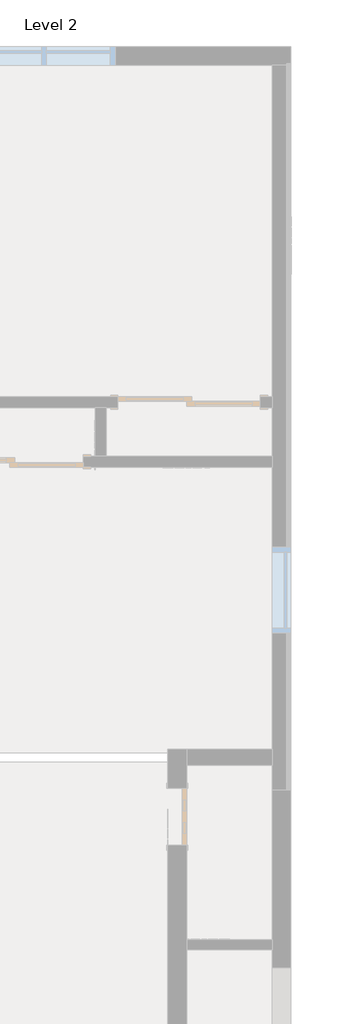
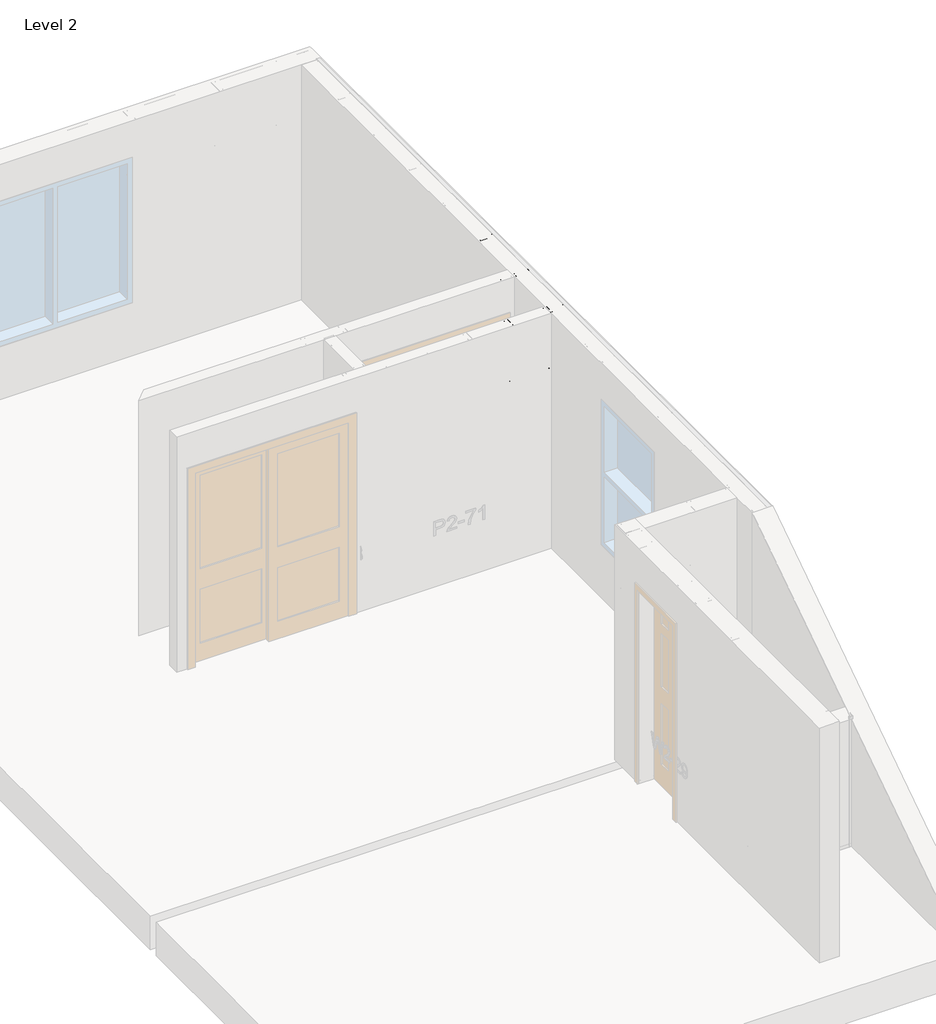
# One storey, part 43 of 46: 7 columns, 2 beams.
"""IFC4 building model written with IfcOpenShell, lengths in millimetres."""

from ifc_helpers import new_model, si_unit, point, frame, origin, place, context, project, spatial, circle_curve, ellipse_curve, trimmed, transform, mapped, element, save
from ifc_brep_helpers import plane_surface, extruded_surface, advanced_brep
from components import beam_350nf150_33_264438c5, beam_550nf150_43_6b8d1d64, column_350nf150_33_a93e9d8a

model = new_model("IFC4")

# Units and contexts
model_context = context("Model", 3, world=origin())
ifc_project = project(units=[si_unit("LENGTHUNIT", "METRE", prefix="MILLI")], contexts=[model_context])

# Site, building, storey
site = spatial("IfcSite", under=ifc_project)
building = spatial("IfcBuilding", under=site)
storey = spatial("IfcBuildingStorey", under=building, Name="Level 2", Elevation=3060.7)

# Beams
placement = place(None, origin())
beam_350nf150_33_shape = beam_350nf150_33_264438c5(model_context)
element("IfcBeam", 1, ObjectType="BIMSF-SSMA-S : 350NF150-33", at=placement, inside=storey, context=model_context, shape_type="MappedRepresentation", body=[
    mapped(beam_350nf150_33_shape, transform((-3281.4913349, 10251.1207511, 3076.575), x_axis=(1.0000000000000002, 0.0, 0.0), y_axis=(0.0, 0.0, -1.0000000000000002), z_axis=(0.0, 1.0000000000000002, 0.0))),
])
beam_550nf150_43_shape = beam_550nf150_43_6b8d1d64(model_context)
element("IfcBeam", 2, ObjectType="BIMSF-SSMA-S : 550NF150-43", at=placement, inside=storey, context=model_context, shape_type="MappedRepresentation", body=[
    mapped(beam_550nf150_43_shape, transform((-3141.7913349, 9984.8718592, 3076.575), x_axis=(0.0, -1.0000000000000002, 0.0), y_axis=(0.0, 0.0, -1.0000000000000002), z_axis=(1.0000000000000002, 0.0, 0.0))),
])

# Columns
element("IfcColumn", 3, ObjectType="BIMSF-SSMA-S-Column : 350NF150-33", at=placement, inside=storey, context=model_context, shape_type="AdvancedBrep", body=[
    advanced_brep(
    [(-3211.6413349, 9659.6535298, 3061.5929687), (-3211.6413349, 9570.7535298, 3061.5929687), (-3249.7413349, 9570.7535298, 3061.5929687), (-3249.7413349, 9576.4110455, 3061.5929687), (-3248.8590191, 9576.4110455, 3061.5929687), (-3248.8590191, 9571.6358455, 3061.5929687), (-3212.5236507, 9571.6358455, 3061.5929687), (-3212.5236507, 9658.771214, 3061.5929687), (-3248.8590191, 9658.771214, 3061.5929687), (-3248.8590191, 9653.996014, 3061.5929687), (-3249.7413349, 9653.996014, 3061.5929687), (-3249.7413349, 9659.6535298, 3061.5929687), (-3211.6413349, 9659.6535298, 5523.6070313), (-3211.6413349, 9570.7535298, 5523.6070313), (-3211.6413349, 9602.5035298, 3671.1929688), (-3211.6413349, 9627.9035298, 3671.1929688), (-3211.6413349, 9602.5035298, 4890.3929687), (-3211.6413349, 9627.9035298, 4890.3929687), (-3249.7413349, 9570.7535298, 5523.6070313), (-3249.7413349, 9576.4110455, 5523.6070313), (-3248.8590191, 9576.4110455, 5523.6070313), (-3248.8590191, 9571.6358455, 5523.6070313), (-3212.5236507, 9571.6358455, 5523.6070313), (-3212.5236507, 9658.771214, 5523.6070313), (-3212.5236507, 9627.9035298, 3671.1929688), (-3212.5236507, 9602.5035298, 3671.1929688), (-3212.5236507, 9627.9035298, 4890.3929687), (-3212.5236507, 9602.5035298, 4890.3929688), (-3248.8590191, 9658.771214, 5523.6070313), (-3248.8590191, 9653.996014, 5523.6070313), (-3249.7413349, 9653.996014, 5523.6070313), (-3249.7413349, 9659.6535298, 5523.6070313)],
    [
        (0, 1),
        (1, 2),
        (2, 3),
        (3, 4),
        (4, 5),
        (5, 6),
        (6, 7),
        (7, 8),
        (8, 9),
        (9, 10),
        (10, 11),
        (11, 0),
        (0, 12),
        (12, 13),
        (13, 1),
        (14, 15, circle_curve(frame((-3211.6413349, 9615.2035298, 3671.1929688), z_axis=(-1.0, 0.0, 0.0), x_axis=(0.0, -1.0, 0.0)), 12.7)),
        (15, 14, circle_curve(frame((-3211.6413349, 9615.2035298, 3671.1929688), z_axis=(-1.0, 0.0, 0.0), x_axis=(0.0, -1.0, 0.0)), 12.7)),
        (16, 17, circle_curve(frame((-3211.6413349, 9615.2035298, 4890.3929688), z_axis=(-1.0, 0.0, 0.0), x_axis=(0.0, -1.0, 0.0)), 12.7)),
        (17, 16, circle_curve(frame((-3211.6413349, 9615.2035298, 4890.3929688), z_axis=(-1.0, 0.0, 0.0), x_axis=(0.0, -1.0, 0.0)), 12.7)),
        (13, 18),
        (18, 2),
        (18, 19),
        (19, 3),
        (19, 20),
        (20, 4),
        (20, 21),
        (21, 5),
        (21, 22),
        (22, 6),
        (22, 23),
        (23, 7),
        (24, 25, circle_curve(frame((-3212.5236507, 9615.2035298, 3671.1929688), z_axis=(1.0, 0.0, 0.0), x_axis=(0.0, -1.0, 0.0)), 12.7)),
        (25, 24, circle_curve(frame((-3212.5236507, 9615.2035298, 3671.1929688), z_axis=(1.0, 0.0, 0.0), x_axis=(0.0, -1.0, 0.0)), 12.7)),
        (26, 27, circle_curve(frame((-3212.5236507, 9615.2035298, 4890.3929687), z_axis=(1.0, 0.0, 0.0), x_axis=(0.0, -1.0, 0.0)), 12.7)),
        (27, 26, circle_curve(frame((-3212.5236507, 9615.2035298, 4890.3929687), z_axis=(1.0, 0.0, 0.0), x_axis=(0.0, -1.0, 0.0)), 12.7)),
        (23, 28),
        (28, 8),
        (28, 29),
        (29, 9),
        (29, 30),
        (30, 10),
        (30, 31),
        (31, 11),
        (31, 12),
        (24, 15),
        (14, 25),
        (26, 17),
        (16, 27),
    ],
    [
        plane_surface(frame((-3211.6413349, 9659.6535298, 3061.5929687), z_axis=(0.0, 0.0, -1.0), x_axis=(1.0, 0.0, 0.0))),
        plane_surface(frame((-3211.6413349, 9570.7535298, 5523.6070313), z_axis=(1.0, 0.0, 0.0), x_axis=(0.0, 0.0, -1.0))),
        plane_surface(frame((-3249.7413349, 9570.7535298, 5523.6070313), z_axis=(0.0, -1.0, 0.0), x_axis=(0.0, 0.0, -1.0))),
        plane_surface(frame((-3249.7413349, 9576.4110455, 5523.6070313), z_axis=(-1.0, 0.0, 0.0), x_axis=(0.0, 0.0, -1.0))),
        plane_surface(frame((-3248.8590191, 9576.4110455, 5523.6070313), z_axis=(0.0, 1.0, 0.0), x_axis=(0.0, 0.0, -1.0))),
        plane_surface(frame((-3248.8590191, 9571.6358455, 5523.6070313), z_axis=(1.0, 0.0, 0.0), x_axis=(0.0, 0.0, -1.0))),
        plane_surface(frame((-3212.5236507, 9571.6358455, 5523.6070313), z_axis=(0.0, 1.0, 0.0), x_axis=(0.0, 0.0, -1.0))),
        plane_surface(frame((-3212.5236507, 9658.771214, 5523.6070313), z_axis=(-1.0, 0.0, 0.0), x_axis=(0.0, 0.0, -1.0))),
        plane_surface(frame((-3248.8590191, 9658.771214, 5523.6070313), z_axis=(0.0, -1.0, 0.0), x_axis=(0.0, 0.0, -1.0))),
        plane_surface(frame((-3248.8590191, 9653.996014, 5523.6070313), z_axis=(1.0, 0.0, 0.0), x_axis=(0.0, 0.0, -1.0))),
        plane_surface(frame((-3249.7413349, 9653.996014, 5523.6070313), z_axis=(0.0, -1.0, 0.0), x_axis=(0.0, 0.0, -1.0))),
        plane_surface(frame((-3249.7413349, 9659.6535298, 5523.6070313), z_axis=(-1.0, 0.0, 0.0), x_axis=(0.0, 0.0, -1.0))),
        plane_surface(frame((-3211.6413349, 9659.6535298, 5523.6070313), z_axis=(0.0, 1.0, 0.0), x_axis=(0.0, 0.0, -1.0))),
        plane_surface(frame((-3211.6413349, 9659.6535298, 5523.6070313), z_axis=(0.0, 0.0, 1.0), x_axis=(-1.0, 0.0, 0.0))),
        extruded_surface(trimmed(ellipse_curve(frame((-5692.7053974, 9615.2035298, 3671.1929688), z_axis=(1.0, 0.0, 0.0), x_axis=(0.0, -1.0, 0.0)), 12.7, 12.7), [point((-5692.7053974, 9627.9035298, 3671.1929688))], [point((-5692.7053974, 9602.5035298, 3671.1929688))], True, "CARTESIAN"), (-4924.028125, 0.0, 0.0), 4924.028125),
        extruded_surface(trimmed(ellipse_curve(frame((-5692.7053974, 9615.2035298, 3671.1929688), z_axis=(1.0, 0.0, 0.0), x_axis=(0.0, -1.0, 0.0)), 12.7, 12.7), [point((-5692.7053974, 9602.5035298, 3671.1929688))], [point((-5692.7053974, 9627.9035298, 3671.1929688))], True, "CARTESIAN"), (-4924.028125, 0.0, 0.0), 4924.028125),
        extruded_surface(trimmed(ellipse_curve(frame((-5692.7053974, 9615.2035298, 4890.3929687), z_axis=(1.0, 0.0, 0.0), x_axis=(0.0, -1.0, 0.0)), 12.7, 12.7), [point((-5692.7053974, 9627.9035298, 4890.3929687))], [point((-5692.7053974, 9602.5035298, 4890.3929687))], True, "CARTESIAN"), (-4924.028125, 0.0, 0.0), 4924.028125),
        extruded_surface(trimmed(ellipse_curve(frame((-5692.7053974, 9615.2035298, 4890.3929687), z_axis=(1.0, 0.0, 0.0), x_axis=(0.0, -1.0, 0.0)), 12.7, 12.7), [point((-5692.7053974, 9602.5035298, 4890.3929687))], [point((-5692.7053974, 9627.9035298, 4890.3929687))], True, "CARTESIAN"), (-4924.028125, 0.0, 0.0), 4924.028125),
    ],
    [
        (0, [[1, 2, 3, 4, 5, 6, 7, 8, 9, 10, 11, 12]]),
        (1, [[-1, 13, 14, 15], [16, 17], [18, 19]]),
        (2, [[-2, -15, 20, 21]]),
        (3, [[-3, -21, 22, 23]]),
        (4, [[-4, -23, 24, 25]]),
        (5, [[-5, -25, 26, 27]]),
        (6, [[-6, -27, 28, 29]]),
        (7, [[-7, -29, 30, 31], [32, 33], [34, 35]]),
        (8, [[-8, -31, 36, 37]]),
        (9, [[-9, -37, 38, 39]]),
        (10, [[-10, -39, 40, 41]]),
        (11, [[-11, -41, 42, 43]]),
        (12, [[-12, -43, 44, -13]]),
        (13, [[-14, -44, -42, -40, -38, -36, -30, -28, -26, -24, -22, -20]]),
        (14, [[45, -16, 46, -32]]),
        (15, [[-45, -33, -46, -17]]),
        (16, [[47, -18, 48, -34]]),
        (17, [[-47, -35, -48, -19]]),
    ],
),
])
element("IfcColumn", 4, ObjectType="BIMSF-SSMA-S-Column : 350NF150-33", at=placement, inside=storey, context=model_context, shape_type="AdvancedBrep", body=[
    advanced_brep(
    [(-3598.9913349, 9659.6535298, 3061.5929687), (-3598.9913349, 9570.7535298, 3061.5929687), (-3637.0913349, 9570.7535298, 3061.5929687), (-3637.0913349, 9576.4110455, 3061.5929687), (-3636.2090191, 9576.4110455, 3061.5929687), (-3636.2090191, 9571.6358455, 3061.5929687), (-3599.8736507, 9571.6358455, 3061.5929687), (-3599.8736507, 9658.771214, 3061.5929687), (-3636.2090191, 9658.771214, 3061.5929687), (-3636.2090191, 9653.996014, 3061.5929687), (-3637.0913349, 9653.996014, 3061.5929687), (-3637.0913349, 9659.6535298, 3061.5929687), (-3598.9913349, 9659.6535298, 5523.6070313), (-3598.9913349, 9570.7535298, 5523.6070313), (-3598.9913349, 9602.5035298, 3671.1929687), (-3598.9913349, 9627.9035298, 3671.1929687), (-3598.9913349, 9602.5035298, 4890.3929687), (-3598.9913349, 9627.9035298, 4890.3929687), (-3637.0913349, 9570.7535298, 5523.6070313), (-3637.0913349, 9576.4110455, 5523.6070313), (-3636.2090191, 9576.4110455, 5523.6070313), (-3636.2090191, 9571.6358455, 5523.6070313), (-3599.8736507, 9571.6358455, 5523.6070313), (-3599.8736507, 9658.771214, 5523.6070313), (-3599.8736507, 9627.9035298, 3671.1929688), (-3599.8736507, 9602.5035298, 3671.1929688), (-3599.8736507, 9627.9035298, 4890.3929687), (-3599.8736507, 9602.5035298, 4890.3929687), (-3636.2090191, 9658.771214, 5523.6070313), (-3636.2090191, 9653.996014, 5523.6070313), (-3637.0913349, 9653.996014, 5523.6070313), (-3637.0913349, 9659.6535298, 5523.6070313)],
    [
        (0, 1),
        (1, 2),
        (2, 3),
        (3, 4),
        (4, 5),
        (5, 6),
        (6, 7),
        (7, 8),
        (8, 9),
        (9, 10),
        (10, 11),
        (11, 0),
        (0, 12),
        (12, 13),
        (13, 1),
        (14, 15, circle_curve(frame((-3598.9913349, 9615.2035298, 3671.1929688), z_axis=(-1.0, 0.0, 0.0), x_axis=(0.0, -1.0, 0.0)), 12.7)),
        (15, 14, circle_curve(frame((-3598.9913349, 9615.2035298, 3671.1929688), z_axis=(-1.0, 0.0, 0.0), x_axis=(0.0, -1.0, 0.0)), 12.7)),
        (16, 17, circle_curve(frame((-3598.9913349, 9615.2035298, 4890.3929687), z_axis=(-1.0, 0.0, 0.0), x_axis=(0.0, -1.0, 0.0)), 12.7)),
        (17, 16, circle_curve(frame((-3598.9913349, 9615.2035298, 4890.3929687), z_axis=(-1.0, 0.0, 0.0), x_axis=(0.0, -1.0, 0.0)), 12.7)),
        (13, 18),
        (18, 2),
        (18, 19),
        (19, 3),
        (19, 20),
        (20, 4),
        (20, 21),
        (21, 5),
        (21, 22),
        (22, 6),
        (22, 23),
        (23, 7),
        (24, 25, circle_curve(frame((-3599.8736507, 9615.2035298, 3671.1929687), z_axis=(1.0, 0.0, 0.0), x_axis=(0.0, -1.0, 0.0)), 12.7)),
        (25, 24, circle_curve(frame((-3599.8736507, 9615.2035298, 3671.1929687), z_axis=(1.0, 0.0, 0.0), x_axis=(0.0, -1.0, 0.0)), 12.7)),
        (26, 27, circle_curve(frame((-3599.8736507, 9615.2035298, 4890.3929687), z_axis=(1.0, 0.0, 0.0), x_axis=(0.0, -1.0, 0.0)), 12.7)),
        (27, 26, circle_curve(frame((-3599.8736507, 9615.2035298, 4890.3929687), z_axis=(1.0, 0.0, 0.0), x_axis=(0.0, -1.0, 0.0)), 12.7)),
        (23, 28),
        (28, 8),
        (28, 29),
        (29, 9),
        (29, 30),
        (30, 10),
        (30, 31),
        (31, 11),
        (31, 12),
        (24, 15),
        (14, 25),
        (26, 17),
        (16, 27),
    ],
    [
        plane_surface(frame((-3598.9913349, 9659.6535298, 3061.5929687), z_axis=(0.0, 0.0, -1.0), x_axis=(1.0, 0.0, 0.0))),
        plane_surface(frame((-3598.9913349, 9570.7535298, 5523.6070313), z_axis=(1.0, 0.0, 0.0), x_axis=(0.0, 0.0, -1.0))),
        plane_surface(frame((-3637.0913349, 9570.7535298, 5523.6070313), z_axis=(0.0, -1.0, 0.0), x_axis=(0.0, 0.0, -1.0))),
        plane_surface(frame((-3637.0913349, 9576.4110455, 5523.6070313), z_axis=(-1.0, 0.0, 0.0), x_axis=(0.0, 0.0, -1.0))),
        plane_surface(frame((-3636.2090191, 9576.4110455, 5523.6070313), z_axis=(0.0, 1.0, 0.0), x_axis=(0.0, 0.0, -1.0))),
        plane_surface(frame((-3636.2090191, 9571.6358455, 5523.6070313), z_axis=(1.0, 0.0, 0.0), x_axis=(0.0, 0.0, -1.0))),
        plane_surface(frame((-3599.8736507, 9571.6358455, 5523.6070313), z_axis=(0.0, 1.0, 0.0), x_axis=(0.0, 0.0, -1.0))),
        plane_surface(frame((-3599.8736507, 9658.771214, 5523.6070313), z_axis=(-1.0, 0.0, 0.0), x_axis=(0.0, 0.0, -1.0))),
        plane_surface(frame((-3636.2090191, 9658.771214, 5523.6070313), z_axis=(0.0, -1.0, 0.0), x_axis=(0.0, 0.0, -1.0))),
        plane_surface(frame((-3636.2090191, 9653.996014, 5523.6070313), z_axis=(1.0, 0.0, 0.0), x_axis=(0.0, 0.0, -1.0))),
        plane_surface(frame((-3637.0913349, 9653.996014, 5523.6070313), z_axis=(0.0, -1.0, 0.0), x_axis=(0.0, 0.0, -1.0))),
        plane_surface(frame((-3637.0913349, 9659.6535298, 5523.6070313), z_axis=(-1.0, 0.0, 0.0), x_axis=(0.0, 0.0, -1.0))),
        plane_surface(frame((-3598.9913349, 9659.6535298, 5523.6070313), z_axis=(0.0, 1.0, 0.0), x_axis=(0.0, 0.0, -1.0))),
        plane_surface(frame((-3598.9913349, 9659.6535298, 5523.6070313), z_axis=(0.0, 0.0, 1.0), x_axis=(-1.0, 0.0, 0.0))),
        extruded_surface(trimmed(ellipse_curve(frame((-6080.0553974, 9615.2035298, 3671.1929688), z_axis=(1.0, 0.0, 0.0), x_axis=(0.0, -1.0, 0.0)), 12.7, 12.7), [point((-6080.0553974, 9627.9035298, 3671.1929688))], [point((-6080.0553974, 9602.5035298, 3671.1929688))], True, "CARTESIAN"), (-4924.028125, 0.0, 0.0), 4924.028125),
        extruded_surface(trimmed(ellipse_curve(frame((-6080.0553974, 9615.2035298, 3671.1929688), z_axis=(1.0, 0.0, 0.0), x_axis=(0.0, -1.0, 0.0)), 12.7, 12.7), [point((-6080.0553974, 9602.5035298, 3671.1929688))], [point((-6080.0553974, 9627.9035298, 3671.1929688))], True, "CARTESIAN"), (-4924.028125, 0.0, 0.0), 4924.028125),
        extruded_surface(trimmed(ellipse_curve(frame((-6080.0553974, 9615.2035298, 4890.3929687), z_axis=(1.0, 0.0, 0.0), x_axis=(0.0, -1.0, 0.0)), 12.7, 12.7), [point((-6080.0553974, 9627.9035298, 4890.3929687))], [point((-6080.0553974, 9602.5035298, 4890.3929687))], True, "CARTESIAN"), (-4924.028125, 0.0, 0.0), 4924.028125),
        extruded_surface(trimmed(ellipse_curve(frame((-6080.0553974, 9615.2035298, 4890.3929687), z_axis=(1.0, 0.0, 0.0), x_axis=(0.0, -1.0, 0.0)), 12.7, 12.7), [point((-6080.0553974, 9602.5035298, 4890.3929687))], [point((-6080.0553974, 9627.9035298, 4890.3929687))], True, "CARTESIAN"), (-4924.028125, 0.0, 0.0), 4924.028125),
    ],
    [
        (0, [[1, 2, 3, 4, 5, 6, 7, 8, 9, 10, 11, 12]]),
        (1, [[-1, 13, 14, 15], [16, 17], [18, 19]]),
        (2, [[-2, -15, 20, 21]]),
        (3, [[-3, -21, 22, 23]]),
        (4, [[-4, -23, 24, 25]]),
        (5, [[-5, -25, 26, 27]]),
        (6, [[-6, -27, 28, 29]]),
        (7, [[-7, -29, 30, 31], [32, 33], [34, 35]]),
        (8, [[-8, -31, 36, 37]]),
        (9, [[-9, -37, 38, 39]]),
        (10, [[-10, -39, 40, 41]]),
        (11, [[-11, -41, 42, 43]]),
        (12, [[-12, -43, 44, -13]]),
        (13, [[-14, -44, -42, -40, -38, -36, -30, -28, -26, -24, -22, -20]]),
        (14, [[45, -16, 46, -32]]),
        (15, [[-45, -33, -46, -17]]),
        (16, [[47, -18, 48, -34]]),
        (17, [[-47, -35, -48, -19]]),
    ],
),
])
column_350nf150_33_shape = column_350nf150_33_a93e9d8a(model_context)
element("IfcColumn", 5, ObjectType="BIMSF-SSMA-S-Column : 350NF150-33", at=placement, inside=storey, context=model_context, shape_type="MappedRepresentation", body=[
    mapped(column_350nf150_33_shape, transform((-3339.3435471, 10261.857876, 0.0), x_axis=(1.0, 0.0, 0.0), y_axis=(0.0, 1.0, 0.0), z_axis=(0.0, 0.0, 1.0))),
])
element("IfcColumn", 6, ObjectType="BIMSF-SSMA-S-Column : 550NF150-43", at=placement, inside=storey, context=model_context, shape_type="AdvancedBrep", body=[
    advanced_brep(
    [(-3071.9413349, 10798.302221, 3061.5929687), (-3211.6413349, 10798.302221, 3061.5929687), (-3211.6413349, 10836.402221, 3061.5929687), (-3205.7164507, 10836.402221, 3061.5929687), (-3205.7164507, 10835.2525367, 3061.5929687), (-3210.4916507, 10835.2525367, 3061.5929687), (-3210.4916507, 10799.4519052, 3061.5929687), (-3073.0910191, 10799.4519052, 3061.5929687), (-3073.0910191, 10835.2525367, 3061.5929687), (-3077.8662191, 10835.2525367, 3061.5929687), (-3077.8662191, 10836.402221, 3061.5929687), (-3071.9413349, 10836.402221, 3061.5929687), (-3071.9413349, 10798.302221, 5523.6070313), (-3211.6413349, 10798.302221, 5523.6070313), (-3154.4913349, 10798.302221, 3671.1929687), (-3129.0913349, 10798.302221, 3671.1929687), (-3154.4913349, 10798.302221, 4890.3929688), (-3129.0913349, 10798.302221, 4890.3929687), (-3211.6413349, 10836.402221, 5523.6070313), (-3205.7164507, 10836.402221, 5523.6070313), (-3205.7164507, 10835.2525367, 5523.6070313), (-3210.4916507, 10835.2525367, 5523.6070313), (-3210.4916507, 10799.4519052, 5523.6070313), (-3073.0910191, 10799.4519052, 5523.6070313), (-3129.0913349, 10799.4519052, 3671.1929688), (-3154.4913349, 10799.4519052, 3671.1929688), (-3129.0913349, 10799.4519052, 4890.3929688), (-3154.4913349, 10799.4519052, 4890.3929688), (-3073.0910191, 10835.2525367, 5523.6070313), (-3077.8662191, 10835.2525367, 5523.6070313), (-3077.8662191, 10836.402221, 5523.6070313), (-3071.9413349, 10836.402221, 5523.6070313)],
    [
        (0, 1),
        (1, 2),
        (2, 3),
        (3, 4),
        (4, 5),
        (5, 6),
        (6, 7),
        (7, 8),
        (8, 9),
        (9, 10),
        (10, 11),
        (11, 0),
        (0, 12),
        (12, 13),
        (13, 1),
        (14, 15, circle_curve(frame((-3141.7913349, 10798.302221, 3671.1929688), z_axis=(0.0, 1.0, 0.0), x_axis=(-1.0, 0.0, 0.0)), 12.7)),
        (15, 14, circle_curve(frame((-3141.7913349, 10798.302221, 3671.1929688), z_axis=(0.0, 1.0, 0.0), x_axis=(-1.0, 0.0, 0.0)), 12.7)),
        (16, 17, circle_curve(frame((-3141.7913349, 10798.302221, 4890.3929687), z_axis=(0.0, 1.0, 0.0), x_axis=(-1.0, 0.0, 0.0)), 12.7)),
        (17, 16, circle_curve(frame((-3141.7913349, 10798.302221, 4890.3929687), z_axis=(0.0, 1.0, 0.0), x_axis=(-1.0, 0.0, 0.0)), 12.7)),
        (13, 18),
        (18, 2),
        (18, 19),
        (19, 3),
        (19, 20),
        (20, 4),
        (20, 21),
        (21, 5),
        (21, 22),
        (22, 6),
        (22, 23),
        (23, 7),
        (24, 25, circle_curve(frame((-3141.7913349, 10799.4519052, 3671.1929688), z_axis=(0.0, -1.0, 0.0), x_axis=(-1.0, 0.0, 0.0)), 12.7)),
        (25, 24, circle_curve(frame((-3141.7913349, 10799.4519052, 3671.1929688), z_axis=(0.0, -1.0, 0.0), x_axis=(-1.0, 0.0, 0.0)), 12.7)),
        (26, 27, circle_curve(frame((-3141.7913349, 10799.4519052, 4890.3929687), z_axis=(0.0, -1.0, 0.0), x_axis=(-1.0, 0.0, 0.0)), 12.7)),
        (27, 26, circle_curve(frame((-3141.7913349, 10799.4519052, 4890.3929687), z_axis=(0.0, -1.0, 0.0), x_axis=(-1.0, 0.0, 0.0)), 12.7)),
        (23, 28),
        (28, 8),
        (28, 29),
        (29, 9),
        (29, 30),
        (30, 10),
        (30, 31),
        (31, 11),
        (31, 12),
        (24, 15),
        (14, 25),
        (26, 17),
        (16, 27),
    ],
    [
        plane_surface(frame((-3071.9413349, 10798.302221, 3061.5929687), z_axis=(0.0, 0.0, -1.0), x_axis=(0.0, -1.0, 0.0))),
        plane_surface(frame((-3211.6413349, 10798.302221, 5523.6070313), z_axis=(0.0, -1.0, 0.0), x_axis=(0.0, 0.0, -1.0))),
        plane_surface(frame((-3211.6413349, 10836.402221, 5523.6070313), z_axis=(-1.0, 0.0, 0.0), x_axis=(0.0, 0.0, -1.0))),
        plane_surface(frame((-3205.7164507, 10836.402221, 5523.6070313), z_axis=(0.0, 1.0, 0.0), x_axis=(0.0, 0.0, -1.0))),
        plane_surface(frame((-3205.7164507, 10835.2525367, 5523.6070313), z_axis=(1.0, 0.0, 0.0), x_axis=(0.0, 0.0, -1.0))),
        plane_surface(frame((-3210.4916507, 10835.2525367, 5523.6070313), z_axis=(0.0, -1.0, 0.0), x_axis=(0.0, 0.0, -1.0))),
        plane_surface(frame((-3210.4916507, 10799.4519052, 5523.6070313), z_axis=(1.0, 0.0, 0.0), x_axis=(0.0, 0.0, -1.0))),
        plane_surface(frame((-3073.0910191, 10799.4519052, 5523.6070313), z_axis=(0.0, 1.0, 0.0), x_axis=(0.0, 0.0, -1.0))),
        plane_surface(frame((-3073.0910191, 10835.2525367, 5523.6070313), z_axis=(-1.0, 0.0, 0.0), x_axis=(0.0, 0.0, -1.0))),
        plane_surface(frame((-3077.8662191, 10835.2525367, 5523.6070313), z_axis=(0.0, -1.0, 0.0), x_axis=(0.0, 0.0, -1.0))),
        plane_surface(frame((-3077.8662191, 10836.402221, 5523.6070313), z_axis=(-1.0, 0.0, 0.0), x_axis=(0.0, 0.0, -1.0))),
        plane_surface(frame((-3071.9413349, 10836.402221, 5523.6070313), z_axis=(0.0, 1.0, 0.0), x_axis=(0.0, 0.0, -1.0))),
        plane_surface(frame((-3071.9413349, 10798.302221, 5523.6070313), z_axis=(1.0, 0.0, 0.0), x_axis=(0.0, 0.0, -1.0))),
        plane_surface(frame((-3071.9413349, 10798.302221, 5523.6070313), z_axis=(0.0, 0.0, 1.0), x_axis=(0.0, 1.0, 0.0))),
        extruded_surface(trimmed(ellipse_curve(frame((-3141.7913349, 13279.3662835, 3671.1929688), z_axis=(0.0, -1.0, 0.0), x_axis=(-1.0, 0.0, 0.0)), 12.7, 12.7), [point((-3129.0913349, 13279.3662835, 3671.1929688))], [point((-3154.4913349, 13279.3662835, 3671.1929688))], True, "CARTESIAN"), (0.0, 4924.028125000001, 0.0), 4924.028125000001),
        extruded_surface(trimmed(ellipse_curve(frame((-3141.7913349, 13279.3662835, 3671.1929688), z_axis=(0.0, -1.0, 0.0), x_axis=(-1.0, 0.0, 0.0)), 12.7, 12.7), [point((-3154.4913349, 13279.3662835, 3671.1929688))], [point((-3129.0913349, 13279.3662835, 3671.1929688))], True, "CARTESIAN"), (0.0, 4924.028125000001, 0.0), 4924.028125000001),
        extruded_surface(trimmed(ellipse_curve(frame((-3141.7913349, 13279.3662835, 4890.3929687), z_axis=(0.0, -1.0, 0.0), x_axis=(-1.0, 0.0, 0.0)), 12.7, 12.7), [point((-3129.0913349, 13279.3662835, 4890.3929687))], [point((-3154.4913349, 13279.3662835, 4890.3929687))], True, "CARTESIAN"), (0.0, 4924.028125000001, 0.0), 4924.028125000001),
        extruded_surface(trimmed(ellipse_curve(frame((-3141.7913349, 13279.3662835, 4890.3929687), z_axis=(0.0, -1.0, 0.0), x_axis=(-1.0, 0.0, 0.0)), 12.7, 12.7), [point((-3154.4913349, 13279.3662835, 4890.3929687))], [point((-3129.0913349, 13279.3662835, 4890.3929687))], True, "CARTESIAN"), (0.0, 4924.028125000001, 0.0), 4924.028125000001),
    ],
    [
        (0, [[1, 2, 3, 4, 5, 6, 7, 8, 9, 10, 11, 12]]),
        (1, [[-1, 13, 14, 15], [16, 17], [18, 19]]),
        (2, [[-2, -15, 20, 21]]),
        (3, [[-3, -21, 22, 23]]),
        (4, [[-4, -23, 24, 25]]),
        (5, [[-5, -25, 26, 27]]),
        (6, [[-6, -27, 28, 29]]),
        (7, [[-7, -29, 30, 31], [32, 33], [34, 35]]),
        (8, [[-8, -31, 36, 37]]),
        (9, [[-9, -37, 38, 39]]),
        (10, [[-10, -39, 40, 41]]),
        (11, [[-11, -41, 42, 43]]),
        (12, [[-12, -43, 44, -13]]),
        (13, [[-14, -44, -42, -40, -38, -36, -30, -28, -26, -24, -22, -20]]),
        (14, [[45, -16, 46, -32]]),
        (15, [[-45, -33, -46, -17]]),
        (16, [[47, -18, 48, -34]]),
        (17, [[-47, -35, -48, -19]]),
    ],
),
])
element("IfcColumn", 7, ObjectType="BIMSF-SSMA-S-Column : 550NF150-43", at=placement, inside=storey, context=model_context, shape_type="AdvancedBrep", body=[
    advanced_brep(
    [(-3071.9413349, 10188.702221, 3061.5929687), (-3211.6413349, 10188.702221, 3061.5929687), (-3211.6413349, 10226.802221, 3061.5929687), (-3205.7164507, 10226.802221, 3061.5929687), (-3205.7164507, 10225.6525367, 3061.5929687), (-3210.4916507, 10225.6525367, 3061.5929687), (-3210.4916507, 10189.8519052, 3061.5929687), (-3073.0910191, 10189.8519052, 3061.5929687), (-3073.0910191, 10225.6525367, 3061.5929687), (-3077.8662191, 10225.6525367, 3061.5929687), (-3077.8662191, 10226.802221, 3061.5929687), (-3071.9413349, 10226.802221, 3061.5929687), (-3071.9413349, 10188.702221, 5523.6070313), (-3211.6413349, 10188.702221, 5523.6070313), (-3154.4913349, 10188.702221, 3671.1929688), (-3129.0913349, 10188.702221, 3671.1929688), (-3154.4913349, 10188.702221, 4890.3929687), (-3129.0913349, 10188.702221, 4890.3929687), (-3211.6413349, 10226.802221, 5523.6070313), (-3205.7164507, 10226.802221, 5523.6070313), (-3205.7164507, 10225.6525367, 5523.6070313), (-3210.4916507, 10225.6525367, 5523.6070313), (-3210.4916507, 10189.8519052, 5523.6070313), (-3073.0910191, 10189.8519052, 5523.6070313), (-3129.0913349, 10189.8519052, 3671.1929688), (-3154.4913349, 10189.8519052, 3671.1929688), (-3129.0913349, 10189.8519052, 4890.3929688), (-3154.4913349, 10189.8519052, 4890.3929688), (-3073.0910191, 10225.6525367, 5523.6070313), (-3077.8662191, 10225.6525367, 5523.6070313), (-3077.8662191, 10226.802221, 5523.6070313), (-3071.9413349, 10226.802221, 5523.6070313)],
    [
        (0, 1),
        (1, 2),
        (2, 3),
        (3, 4),
        (4, 5),
        (5, 6),
        (6, 7),
        (7, 8),
        (8, 9),
        (9, 10),
        (10, 11),
        (11, 0),
        (0, 12),
        (12, 13),
        (13, 1),
        (14, 15, circle_curve(frame((-3141.7913349, 10188.702221, 3671.1929688), z_axis=(0.0, 1.0, 0.0), x_axis=(-1.0, 0.0, 0.0)), 12.7)),
        (15, 14, circle_curve(frame((-3141.7913349, 10188.702221, 3671.1929688), z_axis=(0.0, 1.0, 0.0), x_axis=(-1.0, 0.0, 0.0)), 12.7)),
        (16, 17, circle_curve(frame((-3141.7913349, 10188.702221, 4890.3929687), z_axis=(0.0, 1.0, 0.0), x_axis=(-1.0, 0.0, 0.0)), 12.7)),
        (17, 16, circle_curve(frame((-3141.7913349, 10188.702221, 4890.3929687), z_axis=(0.0, 1.0, 0.0), x_axis=(-1.0, 0.0, 0.0)), 12.7)),
        (13, 18),
        (18, 2),
        (18, 19),
        (19, 3),
        (19, 20),
        (20, 4),
        (20, 21),
        (21, 5),
        (21, 22),
        (22, 6),
        (22, 23),
        (23, 7),
        (24, 25, circle_curve(frame((-3141.7913349, 10189.8519052, 3671.1929688), z_axis=(0.0, -1.0, 0.0), x_axis=(-1.0, 0.0, 0.0)), 12.7)),
        (25, 24, circle_curve(frame((-3141.7913349, 10189.8519052, 3671.1929688), z_axis=(0.0, -1.0, 0.0), x_axis=(-1.0, 0.0, 0.0)), 12.7)),
        (26, 27, circle_curve(frame((-3141.7913349, 10189.8519052, 4890.3929687), z_axis=(0.0, -1.0, 0.0), x_axis=(-1.0, 0.0, 0.0)), 12.7)),
        (27, 26, circle_curve(frame((-3141.7913349, 10189.8519052, 4890.3929687), z_axis=(0.0, -1.0, 0.0), x_axis=(-1.0, 0.0, 0.0)), 12.7)),
        (23, 28),
        (28, 8),
        (28, 29),
        (29, 9),
        (29, 30),
        (30, 10),
        (30, 31),
        (31, 11),
        (31, 12),
        (24, 15),
        (14, 25),
        (26, 17),
        (16, 27),
    ],
    [
        plane_surface(frame((-3071.9413349, 10188.702221, 3061.5929687), z_axis=(0.0, 0.0, -1.0), x_axis=(0.0, -1.0, 0.0))),
        plane_surface(frame((-3211.6413349, 10188.702221, 5523.6070313), z_axis=(0.0, -1.0, 0.0), x_axis=(0.0, 0.0, -1.0))),
        plane_surface(frame((-3211.6413349, 10226.802221, 5523.6070313), z_axis=(-1.0, 0.0, 0.0), x_axis=(0.0, 0.0, -1.0))),
        plane_surface(frame((-3205.7164507, 10226.802221, 5523.6070313), z_axis=(0.0, 1.0, 0.0), x_axis=(0.0, 0.0, -1.0))),
        plane_surface(frame((-3205.7164507, 10225.6525367, 5523.6070313), z_axis=(1.0, 0.0, 0.0), x_axis=(0.0, 0.0, -1.0))),
        plane_surface(frame((-3210.4916507, 10225.6525367, 5523.6070313), z_axis=(0.0, -1.0, 0.0), x_axis=(0.0, 0.0, -1.0))),
        plane_surface(frame((-3210.4916507, 10189.8519052, 5523.6070313), z_axis=(1.0, 0.0, 0.0), x_axis=(0.0, 0.0, -1.0))),
        plane_surface(frame((-3073.0910191, 10189.8519052, 5523.6070313), z_axis=(0.0, 1.0, 0.0), x_axis=(0.0, 0.0, -1.0))),
        plane_surface(frame((-3073.0910191, 10225.6525367, 5523.6070313), z_axis=(-1.0, 0.0, 0.0), x_axis=(0.0, 0.0, -1.0))),
        plane_surface(frame((-3077.8662191, 10225.6525367, 5523.6070313), z_axis=(0.0, -1.0, 0.0), x_axis=(0.0, 0.0, -1.0))),
        plane_surface(frame((-3077.8662191, 10226.802221, 5523.6070313), z_axis=(-1.0, 0.0, 0.0), x_axis=(0.0, 0.0, -1.0))),
        plane_surface(frame((-3071.9413349, 10226.802221, 5523.6070313), z_axis=(0.0, 1.0, 0.0), x_axis=(0.0, 0.0, -1.0))),
        plane_surface(frame((-3071.9413349, 10188.702221, 5523.6070313), z_axis=(1.0, 0.0, 0.0), x_axis=(0.0, 0.0, -1.0))),
        plane_surface(frame((-3071.9413349, 10188.702221, 5523.6070313), z_axis=(0.0, 0.0, 1.0), x_axis=(0.0, 1.0, 0.0))),
        extruded_surface(trimmed(ellipse_curve(frame((-3141.7913349, 12669.7662835, 3671.1929688), z_axis=(0.0, -1.0, 0.0), x_axis=(-1.0, 0.0, 0.0)), 12.7, 12.7), [point((-3129.0913349, 12669.7662835, 3671.1929688))], [point((-3154.4913349, 12669.7662835, 3671.1929688))], True, "CARTESIAN"), (0.0, 4924.028125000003, 0.0), 4924.028125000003),
        extruded_surface(trimmed(ellipse_curve(frame((-3141.7913349, 12669.7662835, 3671.1929688), z_axis=(0.0, -1.0, 0.0), x_axis=(-1.0, 0.0, 0.0)), 12.7, 12.7), [point((-3154.4913349, 12669.7662835, 3671.1929688))], [point((-3129.0913349, 12669.7662835, 3671.1929688))], True, "CARTESIAN"), (0.0, 4924.028125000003, 0.0), 4924.028125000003),
        extruded_surface(trimmed(ellipse_curve(frame((-3141.7913349, 12669.7662835, 4890.3929687), z_axis=(0.0, -1.0, 0.0), x_axis=(-1.0, 0.0, 0.0)), 12.7, 12.7), [point((-3129.0913349, 12669.7662835, 4890.3929687))], [point((-3154.4913349, 12669.7662835, 4890.3929687))], True, "CARTESIAN"), (0.0, 4924.028125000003, 0.0), 4924.028125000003),
        extruded_surface(trimmed(ellipse_curve(frame((-3141.7913349, 12669.7662835, 4890.3929687), z_axis=(0.0, -1.0, 0.0), x_axis=(-1.0, 0.0, 0.0)), 12.7, 12.7), [point((-3154.4913349, 12669.7662835, 4890.3929687))], [point((-3129.0913349, 12669.7662835, 4890.3929687))], True, "CARTESIAN"), (0.0, 4924.028125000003, 0.0), 4924.028125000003),
    ],
    [
        (0, [[1, 2, 3, 4, 5, 6, 7, 8, 9, 10, 11, 12]]),
        (1, [[-1, 13, 14, 15], [16, 17], [18, 19]]),
        (2, [[-2, -15, 20, 21]]),
        (3, [[-3, -21, 22, 23]]),
        (4, [[-4, -23, 24, 25]]),
        (5, [[-5, -25, 26, 27]]),
        (6, [[-6, -27, 28, 29]]),
        (7, [[-7, -29, 30, 31], [32, 33], [34, 35]]),
        (8, [[-8, -31, 36, 37]]),
        (9, [[-9, -37, 38, 39]]),
        (10, [[-10, -39, 40, 41]]),
        (11, [[-11, -41, 42, 43]]),
        (12, [[-12, -43, 44, -13]]),
        (13, [[-14, -44, -42, -40, -38, -36, -30, -28, -26, -24, -22, -20]]),
        (14, [[45, -16, 46, -32]]),
        (15, [[-45, -33, -46, -17]]),
        (16, [[47, -18, 48, -34]]),
        (17, [[-47, -35, -48, -19]]),
    ],
),
])
element("IfcColumn", 8, ObjectType="BIMSF-SSMA-S-Column : 550NF150-43", at=placement, inside=storey, context=model_context, shape_type="AdvancedBrep", body=[
    advanced_brep(
    [(-3071.9413349, 9579.102221, 3061.5929687), (-3211.6413349, 9579.102221, 3061.5929687), (-3211.6413349, 9617.202221, 3061.5929687), (-3205.7164507, 9617.202221, 3061.5929687), (-3205.7164507, 9616.0525367, 3061.5929687), (-3210.4916507, 9616.0525367, 3061.5929687), (-3210.4916507, 9580.2519052, 3061.5929687), (-3073.0910191, 9580.2519052, 3061.5929687), (-3073.0910191, 9616.0525367, 3061.5929687), (-3077.8662191, 9616.0525367, 3061.5929687), (-3077.8662191, 9617.202221, 3061.5929687), (-3071.9413349, 9617.202221, 3061.5929687), (-3071.9413349, 9579.102221, 5523.6070313), (-3211.6413349, 9579.102221, 5523.6070313), (-3154.4913349, 9579.102221, 3671.1929687), (-3129.0913349, 9579.102221, 3671.1929687), (-3154.4913349, 9579.102221, 4890.3929688), (-3129.0913349, 9579.102221, 4890.3929687), (-3211.6413349, 9617.202221, 5523.6070313), (-3205.7164507, 9617.202221, 5523.6070313), (-3205.7164507, 9616.0525367, 5523.6070313), (-3210.4916507, 9616.0525367, 5523.6070313), (-3210.4916507, 9580.2519052, 5523.6070313), (-3073.0910191, 9580.2519052, 5523.6070313), (-3129.0913349, 9580.2519052, 3671.1929688), (-3154.4913349, 9580.2519052, 3671.1929688), (-3129.0913349, 9580.2519052, 4890.3929688), (-3154.4913349, 9580.2519052, 4890.3929688), (-3073.0910191, 9616.0525367, 5523.6070313), (-3077.8662191, 9616.0525367, 5523.6070313), (-3077.8662191, 9617.202221, 5523.6070313), (-3071.9413349, 9617.202221, 5523.6070313)],
    [
        (0, 1),
        (1, 2),
        (2, 3),
        (3, 4),
        (4, 5),
        (5, 6),
        (6, 7),
        (7, 8),
        (8, 9),
        (9, 10),
        (10, 11),
        (11, 0),
        (0, 12),
        (12, 13),
        (13, 1),
        (14, 15, circle_curve(frame((-3141.7913349, 9579.102221, 3671.1929688), z_axis=(0.0, 1.0, 0.0), x_axis=(-1.0, 0.0, 0.0)), 12.7)),
        (15, 14, circle_curve(frame((-3141.7913349, 9579.102221, 3671.1929688), z_axis=(0.0, 1.0, 0.0), x_axis=(-1.0, 0.0, 0.0)), 12.7)),
        (16, 17, circle_curve(frame((-3141.7913349, 9579.102221, 4890.3929687), z_axis=(0.0, 1.0, 0.0), x_axis=(-1.0, 0.0, 0.0)), 12.7)),
        (17, 16, circle_curve(frame((-3141.7913349, 9579.102221, 4890.3929687), z_axis=(0.0, 1.0, 0.0), x_axis=(-1.0, 0.0, 0.0)), 12.7)),
        (13, 18),
        (18, 2),
        (18, 19),
        (19, 3),
        (19, 20),
        (20, 4),
        (20, 21),
        (21, 5),
        (21, 22),
        (22, 6),
        (22, 23),
        (23, 7),
        (24, 25, circle_curve(frame((-3141.7913349, 9580.2519052, 3671.1929688), z_axis=(0.0, -1.0, 0.0), x_axis=(-1.0, 0.0, 0.0)), 12.7)),
        (25, 24, circle_curve(frame((-3141.7913349, 9580.2519052, 3671.1929688), z_axis=(0.0, -1.0, 0.0), x_axis=(-1.0, 0.0, 0.0)), 12.7)),
        (26, 27, circle_curve(frame((-3141.7913349, 9580.2519052, 4890.3929687), z_axis=(0.0, -1.0, 0.0), x_axis=(-1.0, 0.0, 0.0)), 12.7)),
        (27, 26, circle_curve(frame((-3141.7913349, 9580.2519052, 4890.3929687), z_axis=(0.0, -1.0, 0.0), x_axis=(-1.0, 0.0, 0.0)), 12.7)),
        (23, 28),
        (28, 8),
        (28, 29),
        (29, 9),
        (29, 30),
        (30, 10),
        (30, 31),
        (31, 11),
        (31, 12),
        (24, 15),
        (14, 25),
        (26, 17),
        (16, 27),
    ],
    [
        plane_surface(frame((-3071.9413349, 9579.102221, 3061.5929687), z_axis=(0.0, 0.0, -1.0), x_axis=(0.0, -1.0, 0.0))),
        plane_surface(frame((-3211.6413349, 9579.102221, 5523.6070313), z_axis=(0.0, -1.0, 0.0), x_axis=(0.0, 0.0, -1.0))),
        plane_surface(frame((-3211.6413349, 9617.202221, 5523.6070313), z_axis=(-1.0, 0.0, 0.0), x_axis=(0.0, 0.0, -1.0))),
        plane_surface(frame((-3205.7164507, 9617.202221, 5523.6070313), z_axis=(0.0, 1.0, 0.0), x_axis=(0.0, 0.0, -1.0))),
        plane_surface(frame((-3205.7164507, 9616.0525367, 5523.6070313), z_axis=(1.0, 0.0, 0.0), x_axis=(0.0, 0.0, -1.0))),
        plane_surface(frame((-3210.4916507, 9616.0525367, 5523.6070313), z_axis=(0.0, -1.0, 0.0), x_axis=(0.0, 0.0, -1.0))),
        plane_surface(frame((-3210.4916507, 9580.2519052, 5523.6070313), z_axis=(1.0, 0.0, 0.0), x_axis=(0.0, 0.0, -1.0))),
        plane_surface(frame((-3073.0910191, 9580.2519052, 5523.6070313), z_axis=(0.0, 1.0, 0.0), x_axis=(0.0, 0.0, -1.0))),
        plane_surface(frame((-3073.0910191, 9616.0525367, 5523.6070313), z_axis=(-1.0, 0.0, 0.0), x_axis=(0.0, 0.0, -1.0))),
        plane_surface(frame((-3077.8662191, 9616.0525367, 5523.6070313), z_axis=(0.0, -1.0, 0.0), x_axis=(0.0, 0.0, -1.0))),
        plane_surface(frame((-3077.8662191, 9617.202221, 5523.6070313), z_axis=(-1.0, 0.0, 0.0), x_axis=(0.0, 0.0, -1.0))),
        plane_surface(frame((-3071.9413349, 9617.202221, 5523.6070313), z_axis=(0.0, 1.0, 0.0), x_axis=(0.0, 0.0, -1.0))),
        plane_surface(frame((-3071.9413349, 9579.102221, 5523.6070313), z_axis=(1.0, 0.0, 0.0), x_axis=(0.0, 0.0, -1.0))),
        plane_surface(frame((-3071.9413349, 9579.102221, 5523.6070313), z_axis=(0.0, 0.0, 1.0), x_axis=(0.0, 1.0, 0.0))),
        extruded_surface(trimmed(ellipse_curve(frame((-3141.7913349, 12060.1662835, 3671.1929688), z_axis=(0.0, -1.0, 0.0), x_axis=(-1.0, 0.0, 0.0)), 12.7, 12.7), [point((-3129.0913349, 12060.1662835, 3671.1929688))], [point((-3154.4913349, 12060.1662835, 3671.1929688))], True, "CARTESIAN"), (0.0, 4924.028124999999, 0.0), 4924.028124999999),
        extruded_surface(trimmed(ellipse_curve(frame((-3141.7913349, 12060.1662835, 3671.1929688), z_axis=(0.0, -1.0, 0.0), x_axis=(-1.0, 0.0, 0.0)), 12.7, 12.7), [point((-3154.4913349, 12060.1662835, 3671.1929688))], [point((-3129.0913349, 12060.1662835, 3671.1929688))], True, "CARTESIAN"), (0.0, 4924.028124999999, 0.0), 4924.028124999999),
        extruded_surface(trimmed(ellipse_curve(frame((-3141.7913349, 12060.1662835, 4890.3929687), z_axis=(0.0, -1.0, 0.0), x_axis=(-1.0, 0.0, 0.0)), 12.7, 12.7), [point((-3129.0913349, 12060.1662835, 4890.3929687))], [point((-3154.4913349, 12060.1662835, 4890.3929687))], True, "CARTESIAN"), (0.0, 4924.028124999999, 0.0), 4924.028124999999),
        extruded_surface(trimmed(ellipse_curve(frame((-3141.7913349, 12060.1662835, 4890.3929687), z_axis=(0.0, -1.0, 0.0), x_axis=(-1.0, 0.0, 0.0)), 12.7, 12.7), [point((-3154.4913349, 12060.1662835, 4890.3929687))], [point((-3129.0913349, 12060.1662835, 4890.3929687))], True, "CARTESIAN"), (0.0, 4924.028124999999, 0.0), 4924.028124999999),
    ],
    [
        (0, [[1, 2, 3, 4, 5, 6, 7, 8, 9, 10, 11, 12]]),
        (1, [[-1, 13, 14, 15], [16, 17], [18, 19]]),
        (2, [[-2, -15, 20, 21]]),
        (3, [[-3, -21, 22, 23]]),
        (4, [[-4, -23, 24, 25]]),
        (5, [[-5, -25, 26, 27]]),
        (6, [[-6, -27, 28, 29]]),
        (7, [[-7, -29, 30, 31], [32, 33], [34, 35]]),
        (8, [[-8, -31, 36, 37]]),
        (9, [[-9, -37, 38, 39]]),
        (10, [[-10, -39, 40, 41]]),
        (11, [[-11, -41, 42, 43]]),
        (12, [[-12, -43, 44, -13]]),
        (13, [[-14, -44, -42, -40, -38, -36, -30, -28, -26, -24, -22, -20]]),
        (14, [[45, -16, 46, -32]]),
        (15, [[-45, -33, -46, -17]]),
        (16, [[47, -18, 48, -34]]),
        (17, [[-47, -35, -48, -19]]),
    ],
),
])
element("IfcColumn", 9, ObjectType="BIMSF-SSMA-S-Column : 550NF150-43", at=placement, inside=storey, context=model_context, shape_type="AdvancedBrep", body=[
    advanced_brep(
    [(-3071.9413349, 8359.902221, 3061.5929687), (-3211.6413349, 8359.902221, 3061.5929687), (-3211.6413349, 8398.002221, 3061.5929687), (-3205.7164507, 8398.002221, 3061.5929687), (-3205.7164507, 8396.8525367, 3061.5929687), (-3210.4916507, 8396.8525367, 3061.5929687), (-3210.4916507, 8361.0519052, 3061.5929687), (-3073.0910191, 8361.0519052, 3061.5929687), (-3073.0910191, 8396.8525367, 3061.5929687), (-3077.8662191, 8396.8525367, 3061.5929687), (-3077.8662191, 8398.002221, 3061.5929687), (-3071.9413349, 8398.002221, 3061.5929687), (-3071.9413349, 8359.902221, 3615.4320313), (-3211.6413349, 8359.902221, 3615.4320313), (-3154.4913349, 8359.902221, 3366.3929688), (-3129.0913349, 8359.902221, 3366.3929687), (-3211.6413349, 8398.002221, 3615.4320313), (-3205.7164507, 8398.002221, 3615.4320313), (-3205.7164507, 8396.8525367, 3615.4320313), (-3210.4916507, 8396.8525367, 3615.4320313), (-3210.4916507, 8361.0519052, 3615.4320313), (-3073.0910191, 8361.0519052, 3615.4320313), (-3129.0913349, 8361.0519052, 3366.3929687), (-3154.4913349, 8361.0519052, 3366.3929687), (-3073.0910191, 8396.8525367, 3615.4320313), (-3077.8662191, 8396.8525367, 3615.4320313), (-3077.8662191, 8398.002221, 3615.4320313), (-3071.9413349, 8398.002221, 3615.4320313)],
    [
        (0, 1),
        (1, 2),
        (2, 3),
        (3, 4),
        (4, 5),
        (5, 6),
        (6, 7),
        (7, 8),
        (8, 9),
        (9, 10),
        (10, 11),
        (11, 0),
        (0, 12),
        (12, 13),
        (13, 1),
        (14, 15, circle_curve(frame((-3141.7913349, 8359.902221, 3366.3929688), z_axis=(0.0, 1.0, 0.0), x_axis=(-1.0, 0.0, 0.0)), 12.7)),
        (15, 14, circle_curve(frame((-3141.7913349, 8359.902221, 3366.3929688), z_axis=(0.0, 1.0, 0.0), x_axis=(-1.0, 0.0, 0.0)), 12.7)),
        (13, 16),
        (16, 2),
        (16, 17),
        (17, 3),
        (17, 18),
        (18, 4),
        (18, 19),
        (19, 5),
        (19, 20),
        (20, 6),
        (20, 21),
        (21, 7),
        (22, 23, circle_curve(frame((-3141.7913349, 8361.0519052, 3366.3929687), z_axis=(0.0, -1.0, 0.0), x_axis=(-1.0, 0.0, 0.0)), 12.7)),
        (23, 22, circle_curve(frame((-3141.7913349, 8361.0519052, 3366.3929688), z_axis=(0.0, -1.0, 0.0), x_axis=(-1.0, 0.0, 0.0)), 12.7)),
        (21, 24),
        (24, 8),
        (24, 25),
        (25, 9),
        (25, 26),
        (26, 10),
        (26, 27),
        (27, 11),
        (27, 12),
        (22, 15),
        (14, 23),
    ],
    [
        plane_surface(frame((-3071.9413349, 8359.902221, 3061.5929687), z_axis=(0.0, 0.0, -1.0), x_axis=(0.0, -1.0, 0.0))),
        plane_surface(frame((-3211.6413349, 8359.902221, 3615.4320313), z_axis=(0.0, -1.0, 0.0), x_axis=(0.0, 0.0, -1.0))),
        plane_surface(frame((-3211.6413349, 8398.002221, 3615.4320313), z_axis=(-1.0, 0.0, 0.0), x_axis=(0.0, 0.0, -1.0))),
        plane_surface(frame((-3205.7164507, 8398.002221, 3615.4320313), z_axis=(0.0, 1.0, 0.0), x_axis=(0.0, 0.0, -1.0))),
        plane_surface(frame((-3205.7164507, 8396.8525367, 3615.4320313), z_axis=(1.0, 0.0, 0.0), x_axis=(0.0, 0.0, -1.0))),
        plane_surface(frame((-3210.4916507, 8396.8525367, 3615.4320313), z_axis=(0.0, -1.0, 0.0), x_axis=(0.0, 0.0, -1.0))),
        plane_surface(frame((-3210.4916507, 8361.0519052, 3615.4320313), z_axis=(1.0, 0.0, 0.0), x_axis=(0.0, 0.0, -1.0))),
        plane_surface(frame((-3073.0910191, 8361.0519052, 3615.4320313), z_axis=(0.0, 1.0, 0.0), x_axis=(0.0, 0.0, -1.0))),
        plane_surface(frame((-3073.0910191, 8396.8525367, 3615.4320313), z_axis=(-1.0, 0.0, 0.0), x_axis=(0.0, 0.0, -1.0))),
        plane_surface(frame((-3077.8662191, 8396.8525367, 3615.4320313), z_axis=(0.0, -1.0, 0.0), x_axis=(0.0, 0.0, -1.0))),
        plane_surface(frame((-3077.8662191, 8398.002221, 3615.4320313), z_axis=(-1.0, 0.0, 0.0), x_axis=(0.0, 0.0, -1.0))),
        plane_surface(frame((-3071.9413349, 8398.002221, 3615.4320313), z_axis=(0.0, 1.0, 0.0), x_axis=(0.0, 0.0, -1.0))),
        plane_surface(frame((-3071.9413349, 8359.902221, 3615.4320313), z_axis=(1.0, 0.0, 0.0), x_axis=(0.0, 0.0, -1.0))),
        plane_surface(frame((-3071.9413349, 8359.902221, 3615.4320313), z_axis=(0.0, 0.0, 1.0), x_axis=(0.0, 1.0, 0.0))),
        extruded_surface(trimmed(ellipse_curve(frame((-3141.7913349, 8932.7912835, 3366.3929687), z_axis=(0.0, -1.0, 0.0), x_axis=(-1.0, 0.0, 0.0)), 12.7, 12.7), [point((-3129.0913349, 8932.7912835, 3366.3929687))], [point((-3154.4913349, 8932.7912835, 3366.3929687))], True, "CARTESIAN"), (0.0, 1107.6781249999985, 0.0), 1107.6781249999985),
        extruded_surface(trimmed(ellipse_curve(frame((-3141.7913349, 8932.7912835, 3366.3929687), z_axis=(0.0, -1.0, 0.0), x_axis=(-1.0, 0.0, 0.0)), 12.7, 12.7), [point((-3154.4913349, 8932.7912835, 3366.3929687))], [point((-3129.0913349, 8932.7912835, 3366.3929687))], True, "CARTESIAN"), (0.0, 1107.6781249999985, 0.0), 1107.6781249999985),
    ],
    [
        (0, [[1, 2, 3, 4, 5, 6, 7, 8, 9, 10, 11, 12]]),
        (1, [[-1, 13, 14, 15], [16, 17]]),
        (2, [[-2, -15, 18, 19]]),
        (3, [[-3, -19, 20, 21]]),
        (4, [[-4, -21, 22, 23]]),
        (5, [[-5, -23, 24, 25]]),
        (6, [[-6, -25, 26, 27]]),
        (7, [[-7, -27, 28, 29], [30, 31]]),
        (8, [[-8, -29, 32, 33]]),
        (9, [[-9, -33, 34, 35]]),
        (10, [[-10, -35, 36, 37]]),
        (11, [[-11, -37, 38, 39]]),
        (12, [[-12, -39, 40, -13]]),
        (13, [[-14, -40, -38, -36, -34, -32, -28, -26, -24, -22, -20, -18]]),
        (14, [[41, -16, 42, -30]]),
        (15, [[-41, -31, -42, -17]]),
    ],
),
])

save(model, "model.ifc")
